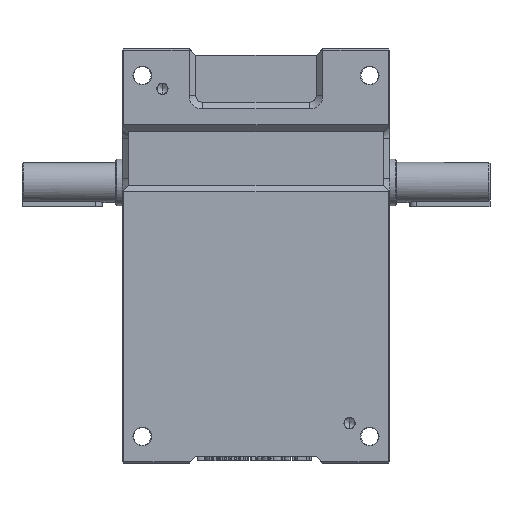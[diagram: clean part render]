
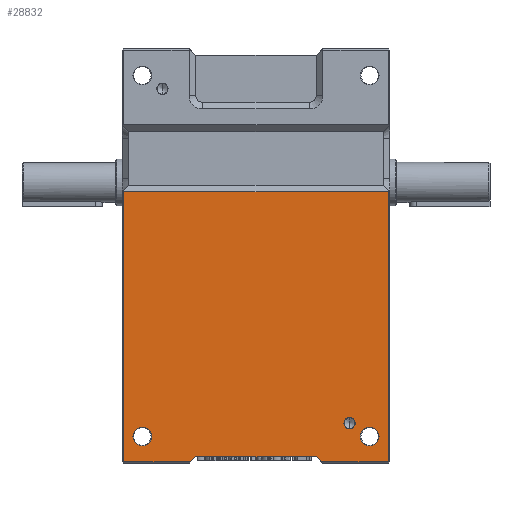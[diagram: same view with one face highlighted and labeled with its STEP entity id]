
A CAD part, front view. The second image highlights one B-rep face of the part: STEP entity #28832.
In plain terms, the highlighted planar face has unit normal (0, -1, 0).
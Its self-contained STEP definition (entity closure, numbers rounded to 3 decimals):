
#900 = CARTESIAN_POINT ( 'NONE',  ( 45., -110., -150. ) ) ;
#6959 = DIRECTION ( 'NONE',  ( -0.707, 0., -0.707 ) ) ;
#8463 = CARTESIAN_POINT ( 'NONE',  ( -85., -110., -135. ) ) ;
#8502 = EDGE_CURVE ( 'NONE', #53063, #19040, #63212, .T. ) ;
#8850 = AXIS2_PLACEMENT_3D ( 'NONE', #124160, #41078, #124688 ) ;
#8984 = LINE ( 'NONE', #141727, #72488 ) ;
#14309 = CARTESIAN_POINT ( 'NONE',  ( -85., -110., -135. ) ) ;
#15005 = VERTEX_POINT ( 'NONE', #60721 ) ;
#15521 = AXIS2_PLACEMENT_3D ( 'NONE', #8463, #92039, #20449 ) ;
#16763 = VECTOR ( 'NONE', #65469, 1000. ) ;
#17064 = ORIENTED_EDGE ( 'NONE', *, *, #83539, .F. ) ;
#17369 = CARTESIAN_POINT ( 'NONE',  ( 0., -110., -154. ) ) ;
#17670 = VERTEX_POINT ( 'NONE', #59324 ) ;
#18736 = AXIS2_PLACEMENT_3D ( 'NONE', #39106, #122682, #51061 ) ;
#19040 = VERTEX_POINT ( 'NONE', #105511 ) ;
#20449 = DIRECTION ( 'NONE',  ( 0., 0., -1. ) ) ;
#20808 = DIRECTION ( 'NONE',  ( 0., -1., 0. ) ) ;
#21006 = VERTEX_POINT ( 'NONE', #900 ) ;
#22483 = ORIENTED_EDGE ( 'NONE', *, *, #8502, .F. ) ;
#26138 = EDGE_LOOP ( 'NONE', ( #66064, #102180 ) ) ;
#26349 = DIRECTION ( 'NONE',  ( 0., 0., -1. ) ) ;
#28832 = ADVANCED_FACE ( 'NONE', ( #52824, #80869, #49056, #88377 ), #29045, .F. ) ;
#29045 = PLANE ( 'NONE',  #8850 ) ;
#30535 = VECTOR ( 'NONE', #143730, 1000. ) ;
#32689 = EDGE_CURVE ( 'NONE', #15005, #127566, #110928, .T. ) ;
#32707 = ORIENTED_EDGE ( 'NONE', *, *, #91345, .F. ) ;
#33751 = CARTESIAN_POINT ( 'NONE',  ( 99., -110., 0. ) ) ;
#33984 = LINE ( 'NONE', #128988, #65720 ) ;
#34142 = DIRECTION ( 'NONE',  ( 0., -1., 0. ) ) ;
#39106 = CARTESIAN_POINT ( 'NONE',  ( 70., -110., -125. ) ) ;
#40659 = CARTESIAN_POINT ( 'NONE',  ( 85., -110., -135. ) ) ;
#41078 = DIRECTION ( 'NONE',  ( 0., 1., 0. ) ) ;
#41940 = CARTESIAN_POINT ( 'NONE',  ( -45., -110., -150. ) ) ;
#44659 = CARTESIAN_POINT ( 'NONE',  ( -45., -110., -150. ) ) ;
#44796 = LINE ( 'NONE', #53956, #16763 ) ;
#46053 = CARTESIAN_POINT ( 'NONE',  ( -85., -110., -127.975 ) ) ;
#46315 = ORIENTED_EDGE ( 'NONE', *, *, #146460, .F. ) ;
#47323 = VECTOR ( 'NONE', #116315, 1000. ) ;
#49056 = FACE_BOUND ( 'NONE', #59233, .T. ) ;
#49185 = EDGE_LOOP ( 'NONE', ( #136522, #115135, #46315, #126008, #32707, #65002, #79066, #17064 ) ) ;
#51061 = DIRECTION ( 'NONE',  ( 1., 0., 0. ) ) ;
#51241 = LINE ( 'NONE', #17369, #114893 ) ;
#52650 = DIRECTION ( 'NONE',  ( 0., 0., -1. ) ) ;
#52824 = FACE_BOUND ( 'NONE', #64391, .T. ) ;
#52988 = CARTESIAN_POINT ( 'NONE',  ( -85., -110., -142.025 ) ) ;
#53063 = VERTEX_POINT ( 'NONE', #88540 ) ;
#53089 = VERTEX_POINT ( 'NONE', #52988 ) ;
#53956 = CARTESIAN_POINT ( 'NONE',  ( 0., -110., -150. ) ) ;
#54210 = CIRCLE ( 'NONE', #18736, 4.25 ) ;
#55504 = CARTESIAN_POINT ( 'NONE',  ( 99., -110., -154. ) ) ;
#57862 = EDGE_CURVE ( 'NONE', #91230, #17670, #58526, .T. ) ;
#58526 = LINE ( 'NONE', #72020, #30535 ) ;
#59233 = EDGE_LOOP ( 'NONE', ( #69127, #83218 ) ) ;
#59324 = CARTESIAN_POINT ( 'NONE',  ( -99., -110., -154. ) ) ;
#60721 = CARTESIAN_POINT ( 'NONE',  ( 99., -110., 48. ) ) ;
#63212 = CIRCLE ( 'NONE', #128710, 4.25 ) ;
#64391 = EDGE_LOOP ( 'NONE', ( #148318, #22483 ) ) ;
#64506 = EDGE_CURVE ( 'NONE', #68860, #116384, #102660, .T. ) ;
#65002 = ORIENTED_EDGE ( 'NONE', *, *, #32689, .F. ) ;
#65469 = DIRECTION ( 'NONE',  ( -1., 0., 0. ) ) ;
#65720 = VECTOR ( 'NONE', #68825, 1000. ) ;
#66064 = ORIENTED_EDGE ( 'NONE', *, *, #105272, .F. ) ;
#68709 = LINE ( 'NONE', #41940, #100507 ) ;
#68825 = DIRECTION ( 'NONE',  ( 1., 0., 0. ) ) ;
#68860 = VERTEX_POINT ( 'NONE', #154465 ) ;
#69127 = ORIENTED_EDGE ( 'NONE', *, *, #94972, .F. ) ;
#70007 = DIRECTION ( 'NONE',  ( 0., 0., 1. ) ) ;
#72020 = CARTESIAN_POINT ( 'NONE',  ( 0., -110., -154. ) ) ;
#72488 = VECTOR ( 'NONE', #70007, 1000. ) ;
#79066 = ORIENTED_EDGE ( 'NONE', *, *, #120818, .F. ) ;
#80869 = FACE_BOUND ( 'NONE', #26138, .T. ) ;
#83218 = ORIENTED_EDGE ( 'NONE', *, *, #64506, .F. ) ;
#83539 = EDGE_CURVE ( 'NONE', #17670, #133380, #8984, .T. ) ;
#86706 = EDGE_CURVE ( 'NONE', #150138, #21006, #89207, .T. ) ;
#88377 = FACE_OUTER_BOUND ( 'NONE', #49185, .T. ) ;
#88540 = CARTESIAN_POINT ( 'NONE',  ( 65.75, -110., -125. ) ) ;
#89207 = LINE ( 'NONE', #100332, #149099 ) ;
#91230 = VERTEX_POINT ( 'NONE', #141937 ) ;
#91345 = EDGE_CURVE ( 'NONE', #127566, #150138, #51241, .T. ) ;
#92039 = DIRECTION ( 'NONE',  ( 0., -1., 0. ) ) ;
#92405 = CARTESIAN_POINT ( 'NONE',  ( 85., -110., -135. ) ) ;
#94972 = EDGE_CURVE ( 'NONE', #116384, #68860, #150032, .T. ) ;
#97932 = DIRECTION ( 'NONE',  ( 0., -1., 0. ) ) ;
#100332 = CARTESIAN_POINT ( 'NONE',  ( 49., -110., -154. ) ) ;
#100507 = VECTOR ( 'NONE', #6959, 1000. ) ;
#102180 = ORIENTED_EDGE ( 'NONE', *, *, #139618, .F. ) ;
#102660 = CIRCLE ( 'NONE', #130975, 7.025 ) ;
#104426 = DIRECTION ( 'NONE',  ( 0., 0., -1. ) ) ;
#105214 = CIRCLE ( 'NONE', #15521, 7.025 ) ;
#105272 = EDGE_CURVE ( 'NONE', #53089, #134523, #108015, .T. ) ;
#105511 = CARTESIAN_POINT ( 'NONE',  ( 74.25, -110., -125. ) ) ;
#105682 = CARTESIAN_POINT ( 'NONE',  ( 70., -110., -125. ) ) ;
#107308 = EDGE_CURVE ( 'NONE', #143374, #91230, #68709, .T. ) ;
#108015 = CIRCLE ( 'NONE', #121406, 7.025 ) ;
#110928 = LINE ( 'NONE', #33751, #47323 ) ;
#112377 = DIRECTION ( 'NONE',  ( -0.707, 0., 0.707 ) ) ;
#113009 = DIRECTION ( 'NONE',  ( -1., 0., 0. ) ) ;
#114893 = VECTOR ( 'NONE', #113009, 1000. ) ;
#115135 = ORIENTED_EDGE ( 'NONE', *, *, #107308, .F. ) ;
#116315 = DIRECTION ( 'NONE',  ( 0., 0., -1. ) ) ;
#116384 = VERTEX_POINT ( 'NONE', #141741 ) ;
#117722 = DIRECTION ( 'NONE',  ( 1., 0., 0. ) ) ;
#118945 = AXIS2_PLACEMENT_3D ( 'NONE', #40659, #124267, #52650 ) ;
#120818 = EDGE_CURVE ( 'NONE', #133380, #15005, #33984, .T. ) ;
#121406 = AXIS2_PLACEMENT_3D ( 'NONE', #14309, #97932, #26349 ) ;
#122581 = CARTESIAN_POINT ( 'NONE',  ( 49., -110., -154. ) ) ;
#122682 = DIRECTION ( 'NONE',  ( 0., -1., 0. ) ) ;
#124160 = CARTESIAN_POINT ( 'NONE',  ( 0., -110., 0. ) ) ;
#124267 = DIRECTION ( 'NONE',  ( 0., -1., 0. ) ) ;
#124688 = DIRECTION ( 'NONE',  ( 0., 0., 1. ) ) ;
#124718 = EDGE_CURVE ( 'NONE', #19040, #53063, #54210, .T. ) ;
#125986 = CARTESIAN_POINT ( 'NONE',  ( -99., -110., 48. ) ) ;
#126008 = ORIENTED_EDGE ( 'NONE', *, *, #86706, .F. ) ;
#127566 = VERTEX_POINT ( 'NONE', #55504 ) ;
#128710 = AXIS2_PLACEMENT_3D ( 'NONE', #105682, #34142, #117722 ) ;
#128988 = CARTESIAN_POINT ( 'NONE',  ( 0., -110., 48. ) ) ;
#130975 = AXIS2_PLACEMENT_3D ( 'NONE', #92405, #20808, #104426 ) ;
#133380 = VERTEX_POINT ( 'NONE', #125986 ) ;
#134523 = VERTEX_POINT ( 'NONE', #46053 ) ;
#136522 = ORIENTED_EDGE ( 'NONE', *, *, #57862, .F. ) ;
#139618 = EDGE_CURVE ( 'NONE', #134523, #53089, #105214, .T. ) ;
#141727 = CARTESIAN_POINT ( 'NONE',  ( -99., -110., 0. ) ) ;
#141741 = CARTESIAN_POINT ( 'NONE',  ( 85., -110., -142.025 ) ) ;
#141937 = CARTESIAN_POINT ( 'NONE',  ( -49., -110., -154. ) ) ;
#143374 = VERTEX_POINT ( 'NONE', #44659 ) ;
#143730 = DIRECTION ( 'NONE',  ( -1., 0., 0. ) ) ;
#146460 = EDGE_CURVE ( 'NONE', #21006, #143374, #44796, .T. ) ;
#148318 = ORIENTED_EDGE ( 'NONE', *, *, #124718, .F. ) ;
#149099 = VECTOR ( 'NONE', #112377, 1000. ) ;
#150032 = CIRCLE ( 'NONE', #118945, 7.025 ) ;
#150138 = VERTEX_POINT ( 'NONE', #122581 ) ;
#154465 = CARTESIAN_POINT ( 'NONE',  ( 85., -110., -127.975 ) ) ;
